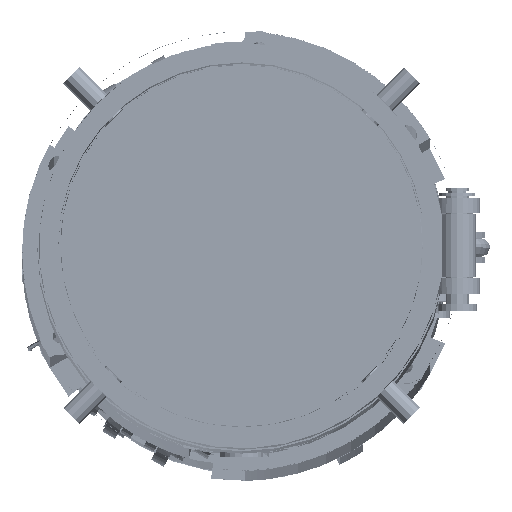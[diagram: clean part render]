
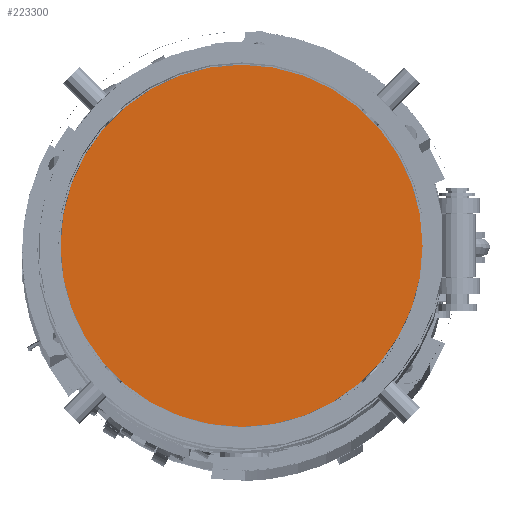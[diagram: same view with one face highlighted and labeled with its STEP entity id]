
A CAD part, top view. The second image highlights one B-rep face of the part: STEP entity #223300.
In plain terms, the highlighted planar face has unit normal (0, 0, 1).
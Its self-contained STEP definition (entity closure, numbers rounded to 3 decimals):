
#221125 = CYLINDRICAL_SURFACE('',#221126,23.5);
#221126 = AXIS2_PLACEMENT_3D('',#221127,#221128,#221129);
#221127 = CARTESIAN_POINT('',(0.,0.,-1.5));
#221128 = DIRECTION('',(0.,0.,1.));
#221129 = DIRECTION('',(1.,0.,-0.));
#221205 = VERTEX_POINT('',#221206);
#221206 = CARTESIAN_POINT('',(23.5,0.,1.5));
#221227 = EDGE_CURVE('',#221205,#221205,#221228,.T.);
#221228 = SURFACE_CURVE('',#221229,(#221234,#221241),.PCURVE_S1.);
#221229 = CIRCLE('',#221230,23.5);
#221230 = AXIS2_PLACEMENT_3D('',#221231,#221232,#221233);
#221231 = CARTESIAN_POINT('',(0.,0.,1.5));
#221232 = DIRECTION('',(0.,0.,1.));
#221233 = DIRECTION('',(1.,0.,-0.));
#221234 = PCURVE('',#221125,#221235);
#221235 = DEFINITIONAL_REPRESENTATION('',(#221236),#221240);
#221236 = LINE('',#221237,#221238);
#221237 = CARTESIAN_POINT('',(0.,3.));
#221238 = VECTOR('',#221239,1.);
#221239 = DIRECTION('',(1.,0.));
#221240 = ( GEOMETRIC_REPRESENTATION_CONTEXT(2) 
PARAMETRIC_REPRESENTATION_CONTEXT() REPRESENTATION_CONTEXT('2D SPACE',''
  ) );
#221241 = PCURVE('',#221242,#221247);
#221242 = PLANE('',#221243);
#221243 = AXIS2_PLACEMENT_3D('',#221244,#221245,#221246);
#221244 = CARTESIAN_POINT('',(0.,0.,1.5));
#221245 = DIRECTION('',(0.,0.,1.));
#221246 = DIRECTION('',(1.,0.,-0.));
#221247 = DEFINITIONAL_REPRESENTATION('',(#221248),#221252);
#221248 = CIRCLE('',#221249,23.5);
#221249 = AXIS2_PLACEMENT_2D('',#221250,#221251);
#221250 = CARTESIAN_POINT('',(0.,0.));
#221251 = DIRECTION('',(1.,0.));
#221252 = ( GEOMETRIC_REPRESENTATION_CONTEXT(2) 
PARAMETRIC_REPRESENTATION_CONTEXT() REPRESENTATION_CONTEXT('2D SPACE',''
  ) );
#223300 = ADVANCED_FACE('',(#223301),#221242,.T.);
#223301 = FACE_BOUND('',#223302,.T.);
#223302 = EDGE_LOOP('',(#223303));
#223303 = ORIENTED_EDGE('',*,*,#221227,.T.);
